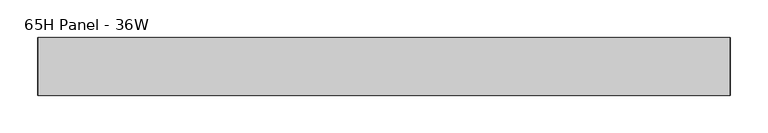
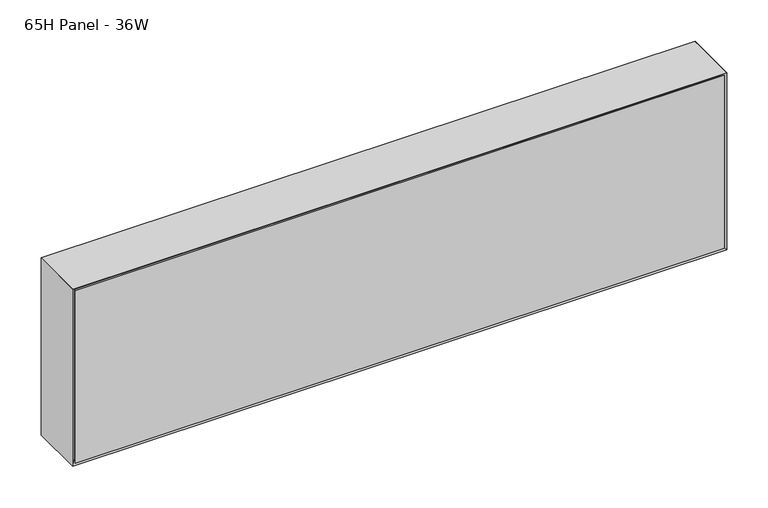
"""IFC4 building model written with IfcOpenShell, lengths in millimetres: furniture geometry, Steelcase - Montage - Frame - 10H - Enhanced Standard - Single Stack-On : 65H Panel - 36W."""

from ifc_helpers import new_model, si_unit, frame, origin, place, context, project, spatial, polyline, outline, extrude, faceted_brep, source, transform, mapped, element, save


def furniture_65h_panel_36w_6e2446d7(model_context):
    return source(origin(), model_context, "Body", "SolidModel", [
        faceted_brep([(904.8750027, 31.7500194, 1912.9502415), (9.5250028, 31.7500194, 1912.9502415), (9.5250028, 31.7500194, 1670.05), (904.8750027, 31.7500194, 1670.05), (911.225, 38.1000194, 1919.3002415), (911.225, 38.1000194, 1663.7), (3.175, 38.1000194, 1663.7), (3.175, 38.1000194, 1919.3002415)], [[[0, 1, 2, 3]], [[4, 5, 6, 7]], [[4, 0, 3, 5]], [[5, 3, 2, 6]], [[6, 2, 1, 7]], [[7, 1, 0, 4]]]),
        faceted_brep([(904.8750027, -31.7500194, 1912.9502415), (904.8750027, -31.7500194, 1670.05), (9.5250028, -31.7500194, 1670.05), (9.5250028, -31.7500194, 1912.9502415), (911.225, -38.1000194, 1919.3002415), (3.175, -38.1000194, 1919.3002415), (3.175, -38.1000194, 1663.7), (911.225, -38.1000194, 1663.7)], [[[0, 1, 2, 3]], [[4, 5, 6, 7]], [[4, 7, 1, 0]], [[7, 6, 2, 1]], [[6, 5, 3, 2]], [[5, 4, 0, 3]]]),
        faceted_brep([(914.4, -38.1000015, 1660.525), (914.4, 38.1000015, 1660.525), (914.4, 38.1000015, 1922.4752415), (914.4, -38.1000106, 1922.4752414), (0.0, 38.1000015, 1660.525), (0.0, -38.1000015, 1660.525), (0.0, -38.1000015, 1922.4752415), (0.0, 38.1000015, 1922.4752415), (6.3500484, 31.749953, 1666.8750484), (908.0499879, 31.749953, 1666.8750484), (6.35, -31.749953, 1666.8750484), (908.0499879, -31.749953, 1666.8750484), (6.3500169, 31.7499846, 1916.1252245), (6.3500012, -31.7500003, 1916.125193), (908.0499879, -31.7499973, 1916.125193), (908.0499879, 31.7499885, 1916.1252293)], [[[0, 1, 2, 3]], [[4, 5, 6, 7]], [[1, 0, 5, 4]], [[1, 4, 8, 9]], [[9, 8, 10, 11]], [[5, 0, 11, 10]], [[4, 7, 12, 8]], [[6, 5, 10, 13]], [[10, 8, 12, 13]], [[9, 11, 14, 15]], [[0, 3, 14, 11]], [[2, 1, 9, 15]], [[3, 2, 15, 14]], [[7, 6, 13, 12]]]),
        faceted_brep([(914.4, -38.1000015, 1922.4752415), (0.0, -38.1000015, 1922.4752415), (6.3500484, -31.749953, 1916.125193), (908.0499516, -31.749953, 1916.125193), (6.3500484, 31.749953, 1916.125193), (908.0499516, 31.749953, 1916.125193), (0.0, 38.1000015, 1922.4752415), (914.4, 38.1000015, 1922.4752415)], [[[0, 1, 2, 3]], [[3, 2, 4, 5]], [[6, 7, 5, 4]], [[1, 0, 7, 6]], [[2, 1, 6, 4]], [[0, 3, 5, 7]]]),
        extrude(outline(polyline([(908.0499879, 31.7500016), (908.0499879, -31.7499985), (6.35, -31.7499985), (6.35, 31.7500016), (908.0499879, 31.7500016)])), frame((0.0, 0.0, 1666.8702145), z_axis=(0.0, 0.0, 1.0), x_axis=(1.0, 0.0, 0.0)), (0.0, 0.0, 1.0), 249.2549785),
    ])


if __name__ == "__main__":
    model = new_model("IFC4")
    model_context = context("Model", 3, world=origin())
    ifc_project = project(units=[si_unit("LENGTHUNIT", "METRE", prefix="MILLI")], contexts=[model_context])
    site = spatial("IfcSite", under=ifc_project)
    building = spatial("IfcBuilding", under=site)
    placement = place(None, origin())
    furniture_65h_panel_36w_shape = furniture_65h_panel_36w_6e2446d7(model_context)
    element("IfcFurniture", 1, ObjectType="Steelcase - Montage - Frame - 10H - Enhanced Standard - Single Stack-On : 65H Panel - 36W", at=placement, inside=building, context=model_context, shape_type="MappedRepresentation", body=[
        mapped(furniture_65h_panel_36w_shape, transform((0.0, 0.0, 0.0), x_axis=(1.0, 0.0, 0.0), y_axis=(0.0, 1.0, 0.0), z_axis=(0.0, 0.0, 1.0))),
    ])
    save(model, "model.ifc")
